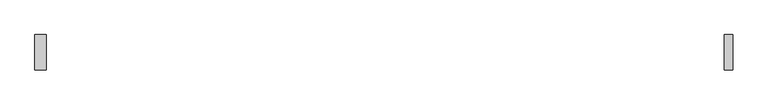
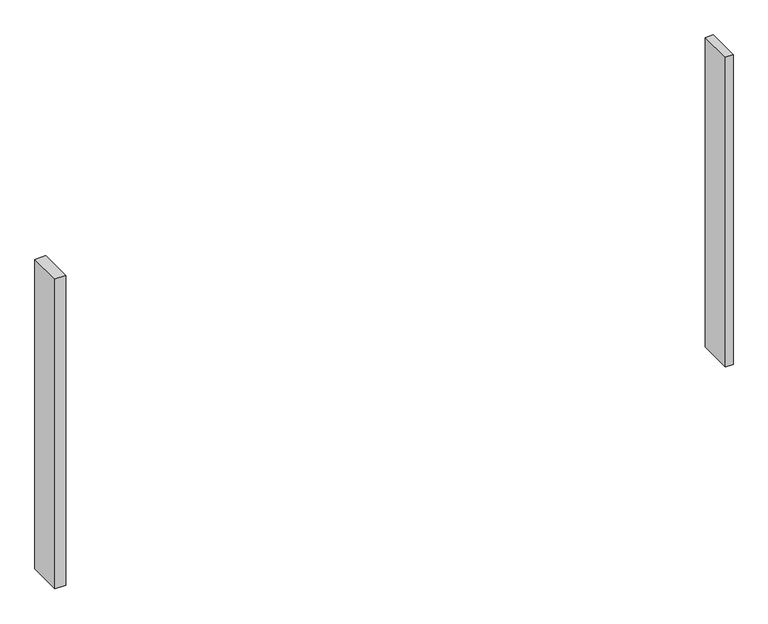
"""IFC4 building model written with IfcOpenShell, lengths in millimetres: plate geometry, Системная панель : Алюкобонд серый."""

from ifc_helpers import new_model, si_unit, origin, origin_with_axes, place, context, project, spatial, polyline, outline, extrude, source, transform, mapped, element, save


def plate_fec8cc85(model_context):
    return source(origin(), model_context, "Body", "SweptSolid", [
        extrude(outline(polyline([(-571.2177422, -10.5), (-590.0, -10.5), (-590.0, 49.5), (-571.2177422, 49.5), (-571.2177422, -10.5)])), origin_with_axes(), (0.0, 0.0, 1.0), 570.0),
        extrude(outline(polyline([(590.0, -10.5), (576.3209135, -10.5), (576.3209135, 49.5), (590.0, 49.5), (590.0, -10.5)])), origin_with_axes(), (0.0, 0.0, 1.0), 570.0),
    ])


if __name__ == "__main__":
    model = new_model("IFC4")
    model_context = context("Model", 3, world=origin())
    ifc_project = project(units=[si_unit("LENGTHUNIT", "METRE", prefix="MILLI")], contexts=[model_context])
    site = spatial("IfcSite", under=ifc_project)
    building = spatial("IfcBuilding", under=site)
    placement = place(None, origin())
    plate_shape = plate_fec8cc85(model_context)
    element("IfcPlate", 1, ObjectType="Системная панель : Алюкобонд серый", at=placement, inside=building, context=model_context, shape_type="MappedRepresentation", body=[
        mapped(plate_shape, transform((0.0, 0.0, 0.0), x_axis=(1.0, 0.0, 0.0), y_axis=(0.0, 1.0, 0.0), z_axis=(0.0, 0.0, 1.0))),
    ])
    save(model, "model.ifc")
